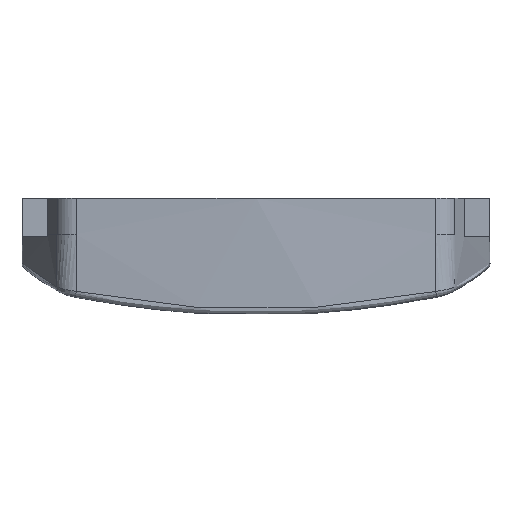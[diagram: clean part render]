
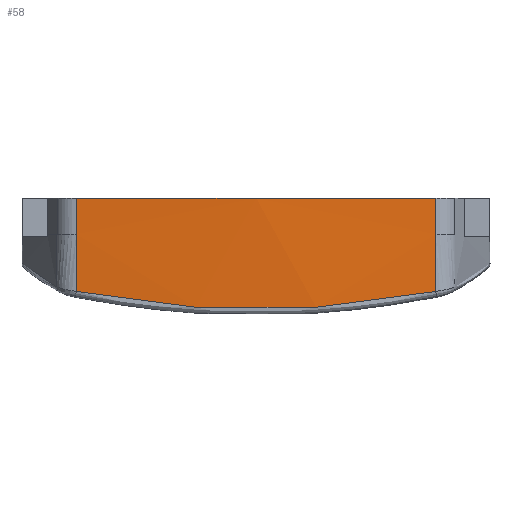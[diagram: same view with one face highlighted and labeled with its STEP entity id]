
A CAD part, top view. The second image highlights one B-rep face of the part: STEP entity #58.
In plain terms, the highlighted free-form (B-spline) face has degree [2, 1] with [9, 2] control points.
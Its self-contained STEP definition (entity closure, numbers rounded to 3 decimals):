
#58=ADVANCED_FACE('',(#217),#2608,.T.);
#217=FACE_OUTER_BOUND('',#377,.T.);
#377=EDGE_LOOP('',(#651,#652,#653,#654,#655,#656,#657));
#651=ORIENTED_EDGE('',*,*,#1462,.T.);
#652=ORIENTED_EDGE('',*,*,#1465,.T.);
#653=ORIENTED_EDGE('',*,*,#1464,.T.);
#654=ORIENTED_EDGE('',*,*,#1469,.T.);
#655=ORIENTED_EDGE('',*,*,#1467,.T.);
#656=ORIENTED_EDGE('',*,*,#1410,.T.);
#657=ORIENTED_EDGE('',*,*,#1463,.F.);
#1410=EDGE_CURVE('',#2282,#2283,#1828,.T.);
#1462=EDGE_CURVE('',#2320,#2321,#1942,.T.);
#1463=EDGE_CURVE('',#2320,#2283,#1943,.T.);
#1464=EDGE_CURVE('',#2324,#2323,#1944,.T.);
#1465=EDGE_CURVE('',#2321,#2324,#1945,.T.);
#1467=EDGE_CURVE('',#2322,#2282,#1947,.T.);
#1469=EDGE_CURVE('',#2323,#2322,#1949,.T.);
#1828=(
BOUNDED_CURVE()
B_SPLINE_CURVE(2,(#5772,#5773,#5774),.UNSPECIFIED.,.F.,.F.)
B_SPLINE_CURVE_WITH_KNOTS((3,3),(-29.898,0.),.UNSPECIFIED.)
CURVE()
GEOMETRIC_REPRESENTATION_ITEM()
RATIONAL_B_SPLINE_CURVE((1.,0.996,1.))
REPRESENTATION_ITEM('')
);
#1942=B_SPLINE_CURVE_WITH_KNOTS('',3,(#5937,#5938,#5939,#5940),
 .UNSPECIFIED.,.F.,.F.,(4,4),(-4.756,0.),.UNSPECIFIED.);
#1943=B_SPLINE_CURVE_WITH_KNOTS('',3,(#5941,#5942,#5943,#5944),
 .UNSPECIFIED.,.F.,.F.,(4,4),(-1.,0.),.UNSPECIFIED.);
#1944=B_SPLINE_CURVE_WITH_KNOTS('',3,(#5945,#5946,#5947,#5948),
 .UNSPECIFIED.,.F.,.F.,(4,4),(-4.75,0.),.UNSPECIFIED.);
#1945=B_SPLINE_CURVE_WITH_KNOTS('',3,(#5949,#5950,#5951,#5952,#5953,#5954),
 .UNSPECIFIED.,.F.,.F.,(4,2,4),(0.,0.5,1.),.UNSPECIFIED.);
#1947=B_SPLINE_CURVE_WITH_KNOTS('',3,(#5961,#5962,#5963,#5964),
 .UNSPECIFIED.,.F.,.F.,(4,4),(-1.,-0.002),.UNSPECIFIED.);
#1949=B_SPLINE_CURVE_WITH_KNOTS('',3,(#5969,#5970,#5971,#5972),
 .UNSPECIFIED.,.F.,.F.,(4,4),(0.,0.024),.UNSPECIFIED.);
#2282=VERTEX_POINT('',#5394);
#2283=VERTEX_POINT('',#5395);
#2320=VERTEX_POINT('',#5432);
#2321=VERTEX_POINT('',#5433);
#2322=VERTEX_POINT('',#5434);
#2323=VERTEX_POINT('',#5435);
#2324=VERTEX_POINT('',#5436);
#2608=(
BOUNDED_SURFACE()
B_SPLINE_SURFACE(2,1,((#3227,#3228),(#3229,#3230),(#3231,#3232),(#3233,
#3234),(#3235,#3236),(#3237,#3238),(#3239,#3240),(#3241,#3242),(#3243,#3244)),
 .UNSPECIFIED.,.T.,.F.,.F.)
B_SPLINE_SURFACE_WITH_KNOTS((3,2,2,2,3),(2,2),(0.,248.199,496.398,
744.597,992.796),(0.,11.343),.UNSPECIFIED.)
GEOMETRIC_REPRESENTATION_ITEM()
RATIONAL_B_SPLINE_SURFACE(((1.,1.),(0.707,0.707),
(1.,1.),(0.707,0.707),(1.,1.),(0.707,
0.707),(1.,1.),(0.707,0.707),(1.,1.)))
REPRESENTATION_ITEM('')
SURFACE()
);
#3227=CARTESIAN_POINT('',(0.004,-40.944,-302.));
#3228=CARTESIAN_POINT('',(0.004,-52.288,-302.001));
#3229=CARTESIAN_POINT('',(158.013,-40.943,-302.));
#3230=CARTESIAN_POINT('',(158.013,-52.286,-302.001));
#3231=CARTESIAN_POINT('',(158.013,-40.951,-143.992));
#3232=CARTESIAN_POINT('',(158.013,-52.295,-143.992));
#3233=CARTESIAN_POINT('',(158.013,-40.96,14.017));
#3234=CARTESIAN_POINT('',(158.013,-52.303,14.016));
#3235=CARTESIAN_POINT('',(0.004,-40.961,14.017));
#3236=CARTESIAN_POINT('',(0.004,-52.304,14.016));
#3237=CARTESIAN_POINT('',(-158.004,-40.962,14.017));
#3238=CARTESIAN_POINT('',(-158.004,-52.305,14.016));
#3239=CARTESIAN_POINT('',(-158.004,-40.954,-143.992));
#3240=CARTESIAN_POINT('',(-158.004,-52.297,-143.992));
#3241=CARTESIAN_POINT('',(-158.004,-40.945,-302.));
#3242=CARTESIAN_POINT('',(-158.004,-52.289,-302.001));
#3243=CARTESIAN_POINT('',(0.004,-40.944,-302.));
#3244=CARTESIAN_POINT('',(0.004,-52.288,-302.001));
#5394=CARTESIAN_POINT('',(14.942,-42.006,13.309));
#5395=CARTESIAN_POINT('',(-14.911,-42.002,13.311));
#5432=CARTESIAN_POINT('',(-14.916,-45.002,13.31));
#5433=CARTESIAN_POINT('',(-14.919,-49.758,13.309));
#5434=CARTESIAN_POINT('',(14.942,-45.009,13.309));
#5435=CARTESIAN_POINT('',(14.918,-45.009,13.311));
#5436=CARTESIAN_POINT('',(14.917,-49.759,13.311));
#5772=CARTESIAN_POINT('',(14.942,-42.006,13.309));
#5773=CARTESIAN_POINT('',(0.016,-42.004,14.727));
#5774=CARTESIAN_POINT('',(-14.911,-42.002,13.311));
#5937=CARTESIAN_POINT('',(-14.916,-45.002,13.31));
#5938=CARTESIAN_POINT('',(-14.917,-46.587,13.31));
#5939=CARTESIAN_POINT('',(-14.918,-48.172,13.309));
#5940=CARTESIAN_POINT('',(-14.919,-49.758,13.309));
#5941=CARTESIAN_POINT('',(-14.916,-45.002,13.31));
#5942=CARTESIAN_POINT('',(-14.917,-44.002,13.31));
#5943=CARTESIAN_POINT('',(-14.911,-43.002,13.311));
#5944=CARTESIAN_POINT('',(-14.911,-42.002,13.311));
#5945=CARTESIAN_POINT('',(14.917,-49.759,13.311));
#5946=CARTESIAN_POINT('',(14.917,-48.175,13.311));
#5947=CARTESIAN_POINT('',(14.918,-46.592,13.311));
#5948=CARTESIAN_POINT('',(14.918,-45.009,13.311));
#5949=CARTESIAN_POINT('',(-14.919,-49.758,13.309));
#5950=CARTESIAN_POINT('',(-9.998,-50.742,13.776));
#5951=CARTESIAN_POINT('',(-5.001,-51.234,14.015));
#5952=CARTESIAN_POINT('',(4.995,-51.234,14.016));
#5953=CARTESIAN_POINT('',(9.994,-50.742,13.777));
#5954=CARTESIAN_POINT('',(14.917,-49.759,13.311));
#5961=CARTESIAN_POINT('',(14.942,-45.009,13.309));
#5962=CARTESIAN_POINT('',(14.942,-44.008,13.309));
#5963=CARTESIAN_POINT('',(14.942,-43.007,13.309));
#5964=CARTESIAN_POINT('',(14.942,-42.006,13.309));
#5969=CARTESIAN_POINT('',(14.918,-45.009,13.311));
#5970=CARTESIAN_POINT('',(14.926,-45.009,13.311));
#5971=CARTESIAN_POINT('',(14.934,-45.009,13.31));
#5972=CARTESIAN_POINT('',(14.942,-45.009,13.309));
